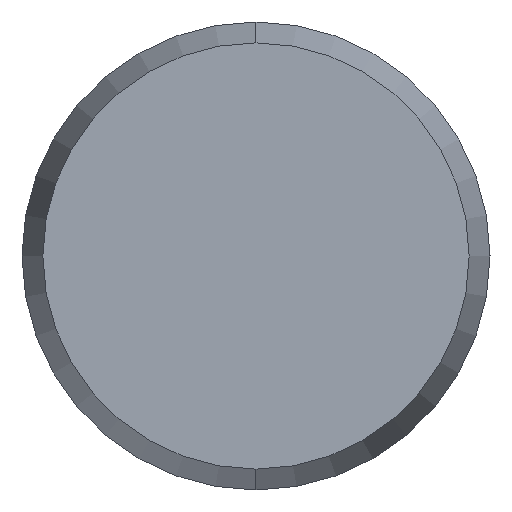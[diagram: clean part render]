
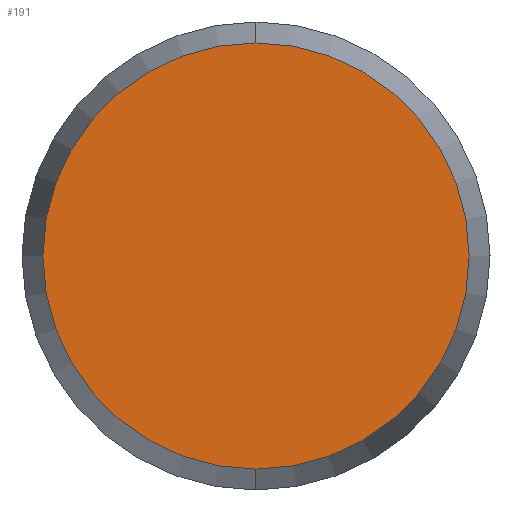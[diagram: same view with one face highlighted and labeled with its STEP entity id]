
A CAD part, left-side view. The second image highlights one B-rep face of the part: STEP entity #191.
In plain terms, the highlighted planar face has unit normal (-1, 0, 0).
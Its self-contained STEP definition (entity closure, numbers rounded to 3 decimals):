
#38 = CARTESIAN_POINT ( 'NONE',  ( -30., 0., -2.732 ) ) ;
#49 = CARTESIAN_POINT ( 'NONE',  ( -30., 0., 2.732 ) ) ;
#81 = CARTESIAN_POINT ( 'NONE',  ( -30., 0., 0. ) ) ;
#87 = DIRECTION ( 'NONE',  ( 1., 0., 0. ) ) ;
#96 = DIRECTION ( 'NONE',  ( 0., 0., -1. ) ) ;
#97 = AXIS2_PLACEMENT_3D ( 'NONE', #81, #87, #96 ) ;
#98 = CIRCLE ( 'NONE', #97, 2.732 ) ;
#103 = PLANE ( 'NONE',  #107 ) ;
#104 = DIRECTION ( 'NONE',  ( 1., 0., 0. ) ) ;
#105 = CARTESIAN_POINT ( 'NONE',  ( -30., 0., 0. ) ) ;
#106 = FACE_OUTER_BOUND ( 'NONE', #186, .T. ) ;
#107 = AXIS2_PLACEMENT_3D ( 'NONE', #105, #104, #257 ) ;
#141 = VERTEX_POINT ( 'NONE', #38 ) ;
#142 = EDGE_CURVE ( 'NONE', #143, #141, #260, .T. ) ;
#143 = VERTEX_POINT ( 'NONE', #49 ) ;
#175 = EDGE_CURVE ( 'NONE', #141, #143, #98, .T. ) ;
#185 = ORIENTED_EDGE ( 'NONE', *, *, #142, .F. ) ;
#186 = EDGE_LOOP ( 'NONE', ( #185, #190 ) ) ;
#190 = ORIENTED_EDGE ( 'NONE', *, *, #175, .F. ) ;
#191 = ADVANCED_FACE ( 'NONE', ( #106 ), #103, .F. ) ;
#244 = AXIS2_PLACEMENT_3D ( 'NONE', #250, #245, #251 ) ;
#245 = DIRECTION ( 'NONE',  ( 1., 0., 0. ) ) ;
#250 = CARTESIAN_POINT ( 'NONE',  ( -30., 0., 0. ) ) ;
#251 = DIRECTION ( 'NONE',  ( 0., 0., -1. ) ) ;
#257 = DIRECTION ( 'NONE',  ( 0., 0., -1. ) ) ;
#260 = CIRCLE ( 'NONE', #244, 2.732 ) ;
